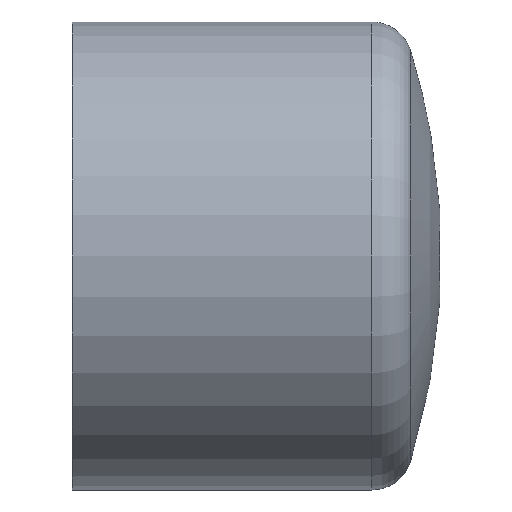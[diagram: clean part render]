
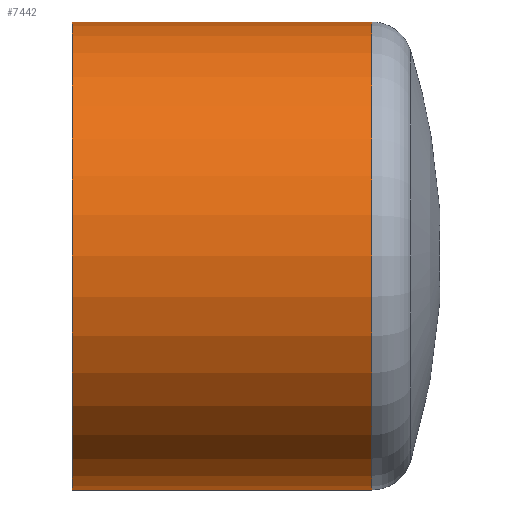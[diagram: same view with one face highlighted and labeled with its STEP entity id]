
A CAD part, front view. The second image highlights one B-rep face of the part: STEP entity #7442.
In plain terms, the highlighted cylindrical face has radius 100 mm (diameter 200 mm), a full revolution.
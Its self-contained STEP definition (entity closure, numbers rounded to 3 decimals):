
#387=CYLINDRICAL_SURFACE('',#8164,100.);
#1706=ORIENTED_EDGE('',*,*,#4181,.T.);
#1707=ORIENTED_EDGE('',*,*,#4180,.F.);
#4180=EDGE_CURVE('',#5411,#5411,#5774,.T.);
#4181=EDGE_CURVE('',#5412,#5412,#5775,.T.);
#5411=VERTEX_POINT('',#12668);
#5412=VERTEX_POINT('',#12671);
#5774=CIRCLE('',#8163,100.);
#5775=CIRCLE('',#8165,100.);
#6295=EDGE_LOOP('',(#1706));
#6296=EDGE_LOOP('',(#1707));
#6855=FACE_BOUND('',#6295,.T.);
#6856=FACE_BOUND('',#6296,.T.);
#7442=ADVANCED_FACE('',(#6855,#6856),#387,.T.);
#8163=AXIS2_PLACEMENT_3D('',#12667,#9186,#9187);
#8164=AXIS2_PLACEMENT_3D('',#12669,#9188,#9189);
#8165=AXIS2_PLACEMENT_3D('',#12670,#9190,#9191);
#9186=DIRECTION('',(-1.,0.,0.));
#9187=DIRECTION('',(0.,0.,1.));
#9188=DIRECTION('',(-1.,0.,0.));
#9189=DIRECTION('',(0.,0.,1.));
#9190=DIRECTION('',(-1.,0.,0.));
#9191=DIRECTION('',(0.,0.,1.));
#12667=CARTESIAN_POINT('',(0.,0.,0.));
#12668=CARTESIAN_POINT('',(0.,0.,100.));
#12669=CARTESIAN_POINT('',(60.,0.,0.));
#12670=CARTESIAN_POINT('',(128.,0.,0.));
#12671=CARTESIAN_POINT('',(128.,0.,100.));
